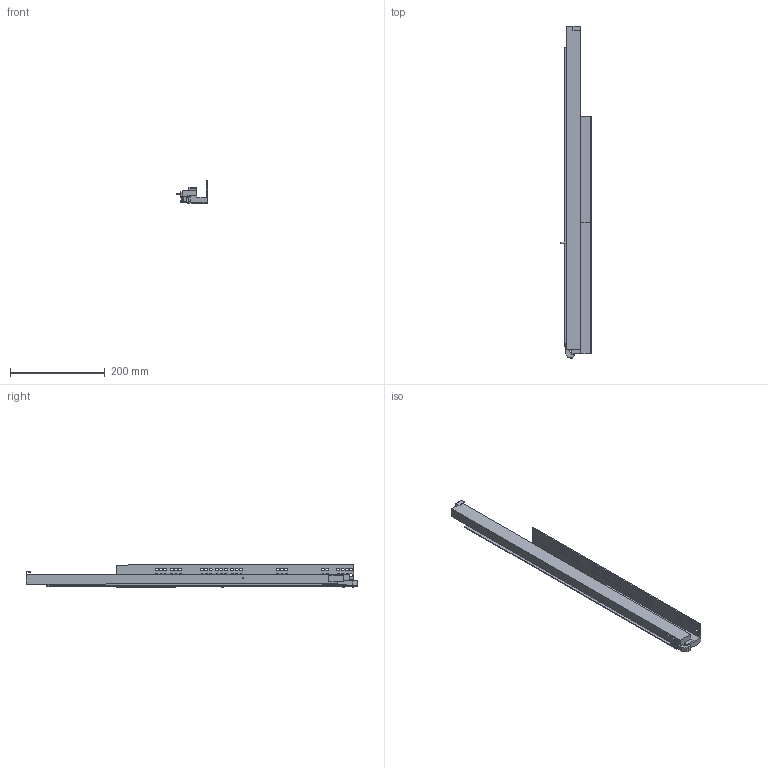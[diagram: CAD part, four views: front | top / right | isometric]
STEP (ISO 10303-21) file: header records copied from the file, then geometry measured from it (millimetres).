
FILE_DESCRIPTION (( 'STEP AP203' ), '1' );
FILE_NAME ('IMOS_Dynapro_Tipmatic_D51_NL_0_RE.STEP', '2013-03-22T11:55:29', ( 'Grass GmbH' ), ( 'Grass GmbH' ), 'SwSTEP 2.0', 'SolidWorks 2012', '' );
FILE_SCHEMA (( 'CONFIG_CONTROL_DESIGN' ));
Length unit declared in the file: millimetre
Products named in the file (1): IMOS_Dynapro_Tipmatic_D51_NL_0_RE
Bounding box: 65.92 x 701.55 x 48.48 mm (x, y, z)
Volume: 646862.1 mm3; surface area: 160975.6 mm2
Topology: 1 solids, 1 shells, 198 faces, 573 edges, 382 vertices
Faces by surface type: cylinder 101, plane 97
Entity records: 6844 total; most frequent: DIRECTION 1173, CARTESIAN_POINT 1154, ORIENTED_EDGE 1146, EDGE_CURVE 573, AXIS2_PLACEMENT_3D 401, VERTEX_POINT 382, VECTOR 371, LINE 371
